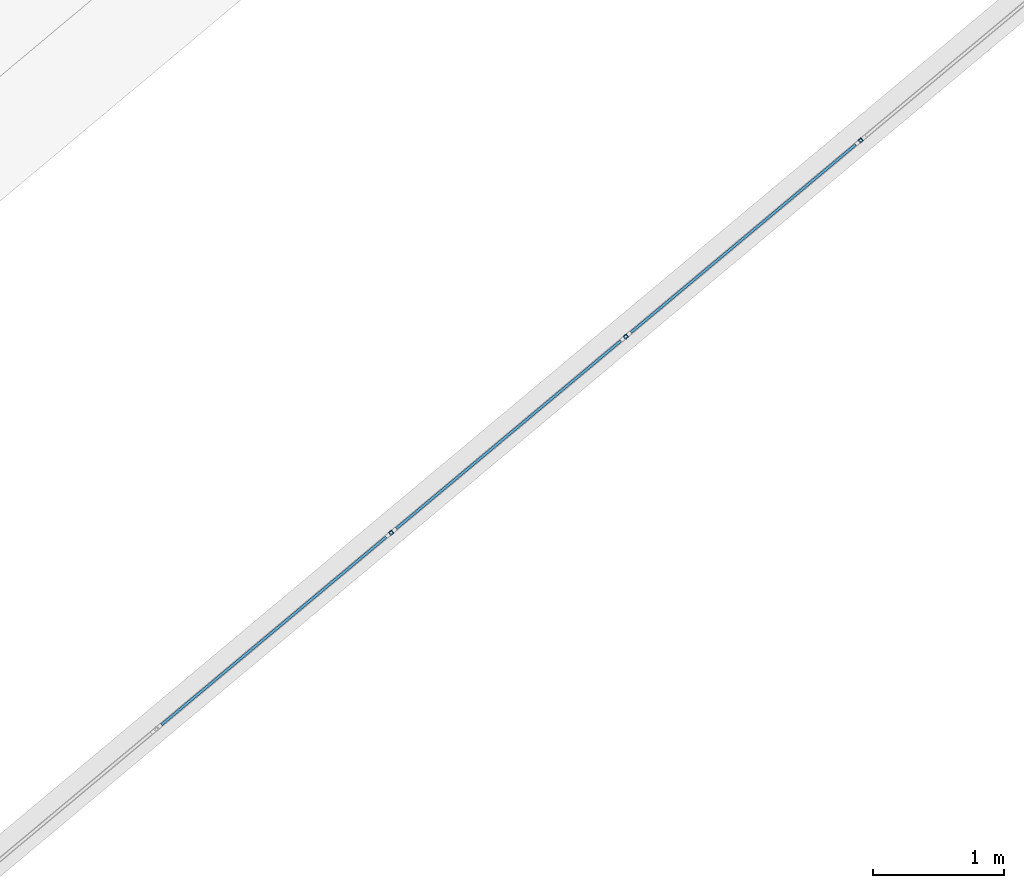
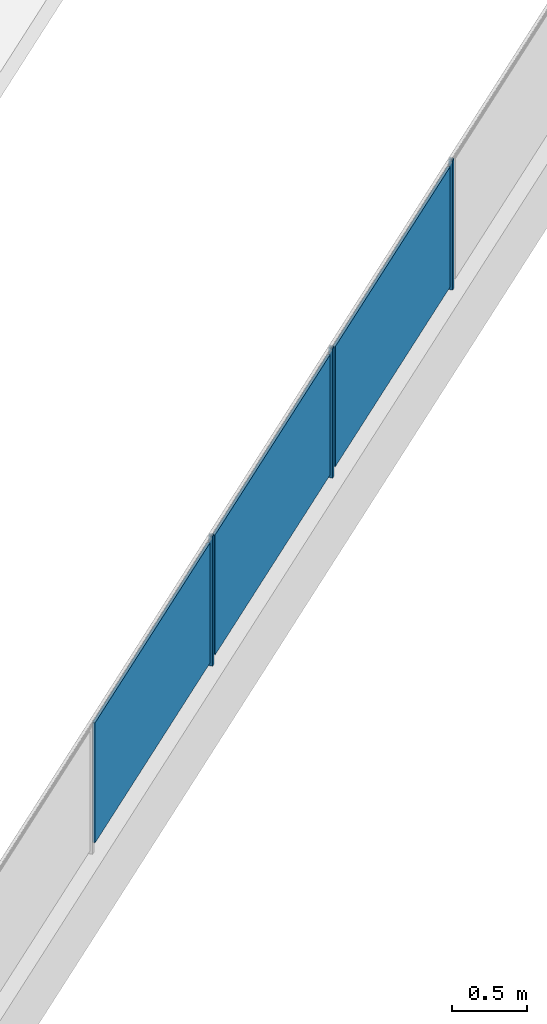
# One storey, part 23 of 75: 6 building element parts, 1 element without a shape of its own.
"""IFC4 building model written with IfcOpenShell, lengths in metres."""

from ifc_helpers import new_model, entity, si_unit, converted_unit, derived_unit, direction, frame, origin_with_axes, place, context, subcontext, project, spatial, polygons, material, type_object, element, aggregate, save


model = new_model("IFC4")

# Units and contexts
model_context = context("Model", 3, precision=1e-05, world=origin_with_axes(), true_north=direction((0.0, 1.0)))
body_context = subcontext(model_context, "Body", "Model", "MODEL_VIEW")
ifc_project = project(units=[si_unit("LENGTHUNIT", "METRE"), si_unit("AREAUNIT", "SQUARE_METRE"), si_unit("VOLUMEUNIT", "CUBIC_METRE"), converted_unit("PLANEANGLEUNIT", "DEGREE", entity("IfcPlaneAngleMeasure", 0.0174532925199), si_unit("PLANEANGLEUNIT", "RADIAN"), dimensions=[0, 0, 0, 0, 0, 0, 0]), converted_unit("TIMEUNIT", "Year", entity("IfcTimeMeasure", 31556926.0), si_unit("TIMEUNIT", "SECOND"), dimensions=[0, 0, 1, 0, 0, 0, 0]), si_unit("MASSUNIT", "GRAM", prefix="KILO"), si_unit("THERMODYNAMICTEMPERATUREUNIT", "DEGREE_CELSIUS"), si_unit("LUMINOUSINTENSITYUNIT", "LUMEN"), si_unit("ENERGYUNIT", "JOULE", prefix="MEGA"), derived_unit("THERMALCONDUCTANCEUNIT", [(si_unit("POWERUNIT", "WATT"), 1), (si_unit("LENGTHUNIT", "METRE"), -1), (si_unit("THERMODYNAMICTEMPERATUREUNIT", "KELVIN"), -1)]), derived_unit("SPECIFICHEATCAPACITYUNIT", [(si_unit("ENERGYUNIT", "JOULE"), 1), (si_unit("MASSUNIT", "GRAM", prefix="KILO"), -1), (si_unit("THERMODYNAMICTEMPERATUREUNIT", "KELVIN"), -1)]), derived_unit("MASSDENSITYUNIT", [(si_unit("MASSUNIT", "GRAM", prefix="KILO"), 1), (si_unit("VOLUMEUNIT", "CUBIC_METRE"), -1)])], contexts=[model_context])

# Site, building, storey
site_placement = place(None, frame((-0.00153261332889, -0.00661245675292, 0.0), z_axis=(0.0, 0.0, 1.0), x_axis=(1.0, 0.0, 0.0)))
site = spatial("IfcSite", under=ifc_project, at=site_placement, Name="Gelände", CompositionType="ELEMENT")
building_placement = place(site_placement, origin_with_axes())
building = spatial("IfcBuilding", under=site, at=building_placement, Name="Gebäude", CompositionType="ELEMENT")
storey_placement = place(building_placement, frame((0.0, 0.0, -0.22), z_axis=(0.0, 0.0, 1.0), x_axis=(1.0, 0.0, 0.0)))
storey = spatial("IfcBuildingStorey", under=building, at=storey_placement, Name="EG", CompositionType="ELEMENT", Elevation=-0.22)

# Railing, building element parts
railing_type = type_object("IfcRailingType", Name="Geländerart", PredefinedType="NOTDEFINED")
railing_placement = place(storey_placement, frame((-12.1608341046, 23.557810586, 0.523948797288), z_axis=(0.0, 0.0, 1.0), x_axis=(1.0, 0.0, 0.0)))
railing = element("IfcRailing", 1, at=railing_placement, inside=storey, type_object=railing_type, Name="Geländer - 001", PredefinedType="NOTDEFINED")
ifc_material_1 = material(Name="Zaun")
building_element_part_1_placement = place(railing_placement, origin_with_axes())
building_element_part_1 = element("IfcBuildingElementPart", 2, at=building_element_part_1_placement, material=ifc_material_1, Name="Zaun", PredefinedType="NOTDEFINED", context=body_context, shape_type="Tessellation", body=[
    polygons([(17.5037067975, -18.9438784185, 0.05), (15.7895264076, -20.3764845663, 0.05), (15.7895264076, -20.3764845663, 1.03), (17.5037067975, -18.9438784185, 1.03), (15.8023518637, -20.3918308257, 0.05), (17.5165322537, -18.9592246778, 0.05), (15.8023518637, -20.3918308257, 1.03), (17.5165322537, -18.9592246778, 1.03)], [[[1, 2, 3, 4]], [[5, 2, 1, 6]], [[7, 3, 2, 5]], [[4, 3, 7, 8]], [[1, 4, 8, 6]], [[7, 5, 6, 8]]], closed=True),
])
ifc_material_2 = material(Name="Aluminium")
building_element_part_2_placement = place(railing_placement, origin_with_axes())
building_element_part_2 = element("IfcBuildingElementPart", 3, at=building_element_part_2_placement, material=ifc_material_2, Name="Aluminium", PredefinedType="NOTDEFINED", context=body_context, shape_type="Tessellation", body=[
    polygons([(17.5696139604, -18.9213785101, 0.0), (17.5503757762, -18.8983591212, 0.0), (17.5503757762, -18.8983591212, 1.06), (17.5696139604, -18.9213785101, 1.06), (17.5465945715, -18.9406166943, 0.0), (17.5273563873, -18.9175973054, 0.0), (17.5625710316, -18.9207483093, 0.0), (17.5497455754, -18.90540205, 0.0), (17.5343993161, -18.9182275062, 0.0), (17.5472247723, -18.9335737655, 0.0), (17.5273563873, -18.9175973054, 1.06), (17.5465945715, -18.9406166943, 1.06), (17.5625710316, -18.9207483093, 1.06), (17.5472247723, -18.9335737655, 1.06), (17.5343993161, -18.9182275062, 1.06), (17.5497455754, -18.90540205, 1.06)], [[[1, 2, 3, 4]], [[1, 5, 6, 2], [7, 8, 9, 10]], [[2, 6, 11, 3]], [[4, 3, 11, 12], [13, 14, 15, 16]], [[5, 1, 4, 12]], [[6, 5, 12, 11]], [[8, 7, 13, 16]], [[9, 8, 16, 15]], [[10, 9, 15, 14]], [[7, 10, 14, 13]]], closed=True),
])
building_element_part_3_placement = place(railing_placement, origin_with_axes())
building_element_part_3 = element("IfcBuildingElementPart", 4, at=building_element_part_3_placement, material=ifc_material_1, Name="Zaun", PredefinedType="NOTDEFINED", context=body_context, shape_type="Tessellation", body=[
    polygons([(19.294618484, -17.4471449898, 0.05), (17.580438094, -18.8797511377, 0.05), (17.580438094, -18.8797511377, 1.03), (19.294618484, -17.4471449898, 1.03), (17.5932635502, -18.895097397, 0.05), (19.3074439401, -17.4624912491, 0.05), (17.5932635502, -18.895097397, 1.03), (19.3074439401, -17.4624912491, 1.03)], [[[1, 2, 3, 4]], [[5, 2, 1, 6]], [[7, 3, 2, 5]], [[4, 3, 7, 8]], [[1, 4, 8, 6]], [[7, 5, 6, 8]]], closed=True),
])
building_element_part_4_placement = place(railing_placement, origin_with_axes())
building_element_part_4 = element("IfcBuildingElementPart", 5, at=building_element_part_4_placement, material=ifc_material_2, Name="Aluminium", PredefinedType="NOTDEFINED", context=body_context, shape_type="Tessellation", body=[
    polygons([(19.3605256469, -17.4246450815, 0.0), (19.3412874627, -17.4016256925, 0.0), (19.3412874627, -17.4016256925, 1.06), (19.3605256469, -17.4246450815, 1.06), (19.3375062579, -17.4438832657, 0.0), (19.3182680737, -17.4208638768, 0.0), (19.353482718, -17.4240148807, 0.0), (19.3406572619, -17.4086686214, 0.0), (19.3253110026, -17.4214940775, 0.0), (19.3381364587, -17.4368403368, 0.0), (19.3182680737, -17.4208638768, 1.06), (19.3375062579, -17.4438832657, 1.06), (19.353482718, -17.4240148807, 1.06), (19.3381364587, -17.4368403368, 1.06), (19.3253110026, -17.4214940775, 1.06), (19.3406572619, -17.4086686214, 1.06)], [[[1, 2, 3, 4]], [[1, 5, 6, 2], [7, 8, 9, 10]], [[2, 6, 11, 3]], [[4, 3, 11, 12], [13, 14, 15, 16]], [[5, 1, 4, 12]], [[6, 5, 12, 11]], [[8, 7, 13, 16]], [[9, 8, 16, 15]], [[10, 9, 15, 14]], [[7, 10, 14, 13]]], closed=True),
])
building_element_part_5_placement = place(railing_placement, origin_with_axes())
building_element_part_5 = element("IfcBuildingElementPart", 6, at=building_element_part_5_placement, material=ifc_material_1, Name="Zaun", PredefinedType="NOTDEFINED", context=body_context, shape_type="Tessellation", body=[
    polygons([(21.0855301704, -15.9504115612, 0.05), (19.3713497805, -17.3830177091, 0.05), (19.3713497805, -17.3830177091, 1.03), (21.0855301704, -15.9504115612, 1.03), (19.3841752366, -17.3983639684, 0.05), (21.0983556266, -15.9657578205, 0.05), (19.3841752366, -17.3983639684, 1.03), (21.0983556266, -15.9657578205, 1.03)], [[[1, 2, 3, 4]], [[5, 2, 1, 6]], [[7, 3, 2, 5]], [[4, 3, 7, 8]], [[1, 4, 8, 6]], [[7, 5, 6, 8]]], closed=True),
])
building_element_part_6_placement = place(railing_placement, origin_with_axes())
building_element_part_6 = element("IfcBuildingElementPart", 7, at=building_element_part_6_placement, material=ifc_material_2, Name="Aluminium", PredefinedType="NOTDEFINED", context=body_context, shape_type="Tessellation", body=[
    polygons([(21.1514373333, -15.9279116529, 0.0), (21.1321991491, -15.9048922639, 0.0), (21.1321991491, -15.9048922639, 1.06), (21.1514373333, -15.9279116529, 1.06), (21.1284179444, -15.9471498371, 0.0), (21.1091797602, -15.9241304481, 0.0), (21.1443944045, -15.9272814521, 0.0), (21.1315689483, -15.9119351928, 0.0), (21.116222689, -15.9247606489, 0.0), (21.1290481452, -15.9401069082, 0.0), (21.1091797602, -15.9241304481, 1.06), (21.1284179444, -15.9471498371, 1.06), (21.1443944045, -15.9272814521, 1.06), (21.1290481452, -15.9401069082, 1.06), (21.116222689, -15.9247606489, 1.06), (21.1315689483, -15.9119351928, 1.06)], [[[1, 2, 3, 4]], [[1, 5, 6, 2], [7, 8, 9, 10]], [[2, 6, 11, 3]], [[4, 3, 11, 12], [13, 14, 15, 16]], [[5, 1, 4, 12]], [[6, 5, 12, 11]], [[8, 7, 13, 16]], [[9, 8, 16, 15]], [[10, 9, 15, 14]], [[7, 10, 14, 13]]], closed=True),
])
aggregate(railing, [building_element_part_1, building_element_part_2, building_element_part_3, building_element_part_4, building_element_part_5, building_element_part_6])

save(model, "model.ifc")
